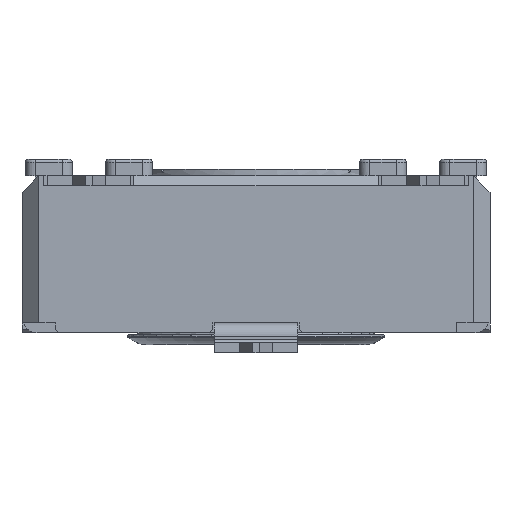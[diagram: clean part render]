
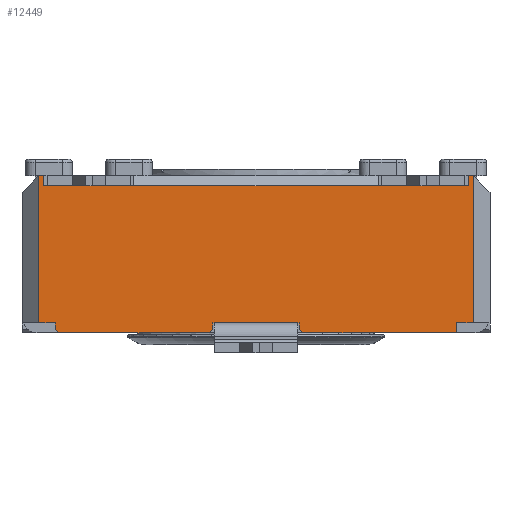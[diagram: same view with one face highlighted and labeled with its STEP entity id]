
A CAD part, front view. The second image highlights one B-rep face of the part: STEP entity #12449.
In plain terms, the highlighted planar face has unit normal (0, -1, 0).
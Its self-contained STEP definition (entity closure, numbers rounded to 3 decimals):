
#334=LINE('',#17734,#1812);
#347=LINE('',#17768,#1825);
#352=LINE('',#17778,#1830);
#430=LINE('',#17937,#1908);
#455=LINE('',#17988,#1933);
#481=LINE('',#18052,#1959);
#482=LINE('',#18054,#1960);
#483=LINE('',#18056,#1961);
#484=LINE('',#18057,#1962);
#485=LINE('',#18059,#1963);
#486=LINE('',#18061,#1964);
#487=LINE('',#18063,#1965);
#488=LINE('',#18065,#1966);
#489=LINE('',#18066,#1967);
#490=LINE('',#18068,#1968);
#491=LINE('',#18070,#1969);
#492=LINE('',#18072,#1970);
#493=LINE('',#18074,#1971);
#494=LINE('',#18076,#1972);
#495=LINE('',#18078,#1973);
#496=LINE('',#18080,#1974);
#497=LINE('',#18082,#1975);
#498=LINE('',#18084,#1976);
#499=LINE('',#18085,#1977);
#500=LINE('',#18087,#1978);
#501=LINE('',#18089,#1979);
#502=LINE('',#18090,#1980);
#1812=VECTOR('',#14211,10.);
#1825=VECTOR('',#14250,10.);
#1830=VECTOR('',#14255,10.);
#1908=VECTOR('',#14357,10.);
#1933=VECTOR('',#14398,10.);
#1959=VECTOR('',#14446,10.);
#1960=VECTOR('',#14447,10.);
#1961=VECTOR('',#14448,10.);
#1962=VECTOR('',#14449,10.);
#1963=VECTOR('',#14450,10.);
#1964=VECTOR('',#14451,10.);
#1965=VECTOR('',#14452,10.);
#1966=VECTOR('',#14453,10.);
#1967=VECTOR('',#14454,10.);
#1968=VECTOR('',#14455,10.);
#1969=VECTOR('',#14456,10.);
#1970=VECTOR('',#14457,10.);
#1971=VECTOR('',#14458,10.);
#1972=VECTOR('',#14459,10.);
#1973=VECTOR('',#14460,10.);
#1974=VECTOR('',#14461,10.);
#1975=VECTOR('',#14462,10.);
#1976=VECTOR('',#14463,10.);
#1977=VECTOR('',#14464,10.);
#1978=VECTOR('',#14465,10.);
#1979=VECTOR('',#14466,10.);
#1980=VECTOR('',#14467,10.);
#3290=FACE_OUTER_BOUND('',#3960,.T.);
#3960=EDGE_LOOP('',(#8291,#8292,#8293,#8294,#8295,#8296,#8297,#8298,#8299,
#8300,#8301,#8302,#8303,#8304,#8305,#8306,#8307,#8308,#8309,#8310,#8311,
#8312,#8313,#8314,#8315,#8316,#8317));
#4951=VERTEX_POINT('',#17712);
#4959=VERTEX_POINT('',#17733);
#4967=VERTEX_POINT('',#17767);
#4971=VERTEX_POINT('',#17775);
#4972=VERTEX_POINT('',#17777);
#5040=VERTEX_POINT('',#17934);
#5041=VERTEX_POINT('',#17936);
#5058=VERTEX_POINT('',#17985);
#5059=VERTEX_POINT('',#17987);
#5086=VERTEX_POINT('',#18051);
#5087=VERTEX_POINT('',#18053);
#5088=VERTEX_POINT('',#18055);
#5089=VERTEX_POINT('',#18058);
#5090=VERTEX_POINT('',#18060);
#5091=VERTEX_POINT('',#18062);
#5092=VERTEX_POINT('',#18064);
#5093=VERTEX_POINT('',#18067);
#5094=VERTEX_POINT('',#18069);
#5095=VERTEX_POINT('',#18071);
#5096=VERTEX_POINT('',#18073);
#5097=VERTEX_POINT('',#18075);
#5098=VERTEX_POINT('',#18077);
#5099=VERTEX_POINT('',#18079);
#5100=VERTEX_POINT('',#18081);
#5101=VERTEX_POINT('',#18083);
#5102=VERTEX_POINT('',#18086);
#5103=VERTEX_POINT('',#18088);
#6174=EDGE_CURVE('',#4951,#4959,#334,.T.);
#6191=EDGE_CURVE('',#4967,#4951,#347,.T.);
#6196=EDGE_CURVE('',#4972,#4971,#352,.T.);
#6275=EDGE_CURVE('',#5041,#5040,#430,.T.);
#6300=EDGE_CURVE('',#5059,#5058,#455,.T.);
#6332=EDGE_CURVE('',#5040,#5086,#481,.T.);
#6333=EDGE_CURVE('',#5086,#5087,#482,.T.);
#6334=EDGE_CURVE('',#5087,#5088,#483,.T.);
#6335=EDGE_CURVE('',#4972,#5088,#484,.T.);
#6336=EDGE_CURVE('',#4971,#5089,#485,.T.);
#6337=EDGE_CURVE('',#5090,#5089,#486,.T.);
#6338=EDGE_CURVE('',#5090,#5091,#487,.T.);
#6339=EDGE_CURVE('',#5092,#5091,#488,.T.);
#6340=EDGE_CURVE('',#4967,#5092,#489,.T.);
#6341=EDGE_CURVE('',#4959,#5093,#490,.T.);
#6342=EDGE_CURVE('',#5093,#5094,#491,.T.);
#6343=EDGE_CURVE('',#5095,#5094,#492,.T.);
#6344=EDGE_CURVE('',#5095,#5096,#493,.T.);
#6345=EDGE_CURVE('',#5096,#5097,#494,.T.);
#6346=EDGE_CURVE('',#5097,#5098,#495,.T.);
#6347=EDGE_CURVE('',#5099,#5098,#496,.T.);
#6348=EDGE_CURVE('',#5099,#5100,#497,.T.);
#6349=EDGE_CURVE('',#5100,#5101,#498,.T.);
#6350=EDGE_CURVE('',#5101,#5059,#499,.T.);
#6351=EDGE_CURVE('',#5058,#5102,#500,.T.);
#6352=EDGE_CURVE('',#5103,#5102,#501,.T.);
#6353=EDGE_CURVE('',#5103,#5041,#502,.T.);
#8291=ORIENTED_EDGE('',*,*,#6275,.T.);
#8292=ORIENTED_EDGE('',*,*,#6332,.T.);
#8293=ORIENTED_EDGE('',*,*,#6333,.T.);
#8294=ORIENTED_EDGE('',*,*,#6334,.T.);
#8295=ORIENTED_EDGE('',*,*,#6335,.F.);
#8296=ORIENTED_EDGE('',*,*,#6196,.T.);
#8297=ORIENTED_EDGE('',*,*,#6336,.T.);
#8298=ORIENTED_EDGE('',*,*,#6337,.F.);
#8299=ORIENTED_EDGE('',*,*,#6338,.T.);
#8300=ORIENTED_EDGE('',*,*,#6339,.F.);
#8301=ORIENTED_EDGE('',*,*,#6340,.F.);
#8302=ORIENTED_EDGE('',*,*,#6191,.T.);
#8303=ORIENTED_EDGE('',*,*,#6174,.T.);
#8304=ORIENTED_EDGE('',*,*,#6341,.T.);
#8305=ORIENTED_EDGE('',*,*,#6342,.T.);
#8306=ORIENTED_EDGE('',*,*,#6343,.F.);
#8307=ORIENTED_EDGE('',*,*,#6344,.T.);
#8308=ORIENTED_EDGE('',*,*,#6345,.T.);
#8309=ORIENTED_EDGE('',*,*,#6346,.T.);
#8310=ORIENTED_EDGE('',*,*,#6347,.F.);
#8311=ORIENTED_EDGE('',*,*,#6348,.T.);
#8312=ORIENTED_EDGE('',*,*,#6349,.T.);
#8313=ORIENTED_EDGE('',*,*,#6350,.T.);
#8314=ORIENTED_EDGE('',*,*,#6300,.T.);
#8315=ORIENTED_EDGE('',*,*,#6351,.T.);
#8316=ORIENTED_EDGE('',*,*,#6352,.F.);
#8317=ORIENTED_EDGE('',*,*,#6353,.T.);
#11737=PLANE('',#13158);
#12449=ADVANCED_FACE('',(#3290),#11737,.T.);
#13158=AXIS2_PLACEMENT_3D('',#18050,#14444,#14445);
#14211=DIRECTION('',(1.,0.,0.));
#14250=DIRECTION('',(1.,0.,0.));
#14255=DIRECTION('',(1.,0.,0.));
#14357=DIRECTION('',(-1.,0.,0.));
#14398=DIRECTION('',(-1.,0.,0.));
#14444=DIRECTION('center_axis',(0.,-1.,0.));
#14445=DIRECTION('ref_axis',(0.,0.,-1.));
#14446=DIRECTION('',(-1.,0.,0.));
#14447=DIRECTION('',(0.,0.,1.));
#14448=DIRECTION('',(-1.,0.,0.));
#14449=DIRECTION('',(0.,0.,1.));
#14450=DIRECTION('',(0.,0.,-1.));
#14451=DIRECTION('',(-0.707,0.,0.707));
#14452=DIRECTION('',(1.,0.,0.));
#14453=DIRECTION('',(-0.707,0.,-0.707));
#14454=DIRECTION('',(0.,0.,-1.));
#14455=DIRECTION('',(1.,0.,0.));
#14456=DIRECTION('',(0.,0.,-1.));
#14457=DIRECTION('',(-0.707,0.,0.707));
#14458=DIRECTION('',(1.,0.,0.));
#14459=DIRECTION('',(0.,0.,1.));
#14460=DIRECTION('',(1.,0.,0.));
#14461=DIRECTION('',(0.,0.,-1.));
#14462=DIRECTION('',(-1.,0.,0.));
#14463=DIRECTION('',(0.,0.,-1.));
#14464=DIRECTION('',(-1.,0.,0.));
#14465=DIRECTION('',(-1.,0.,0.));
#14466=DIRECTION('',(1.,0.,0.));
#14467=DIRECTION('',(-1.,0.,0.));
#17712=CARTESIAN_POINT('',(-8.717,-9.898,0.));
#17733=CARTESIAN_POINT('',(-6.217,-9.898,0.));
#17734=CARTESIAN_POINT('',(-14.467,-9.898,0.));
#17767=CARTESIAN_POINT('',(-8.767,-9.898,0.));
#17768=CARTESIAN_POINT('',(-14.467,-9.898,0.));
#17775=CARTESIAN_POINT('',(-13.467,-9.898,0.));
#17777=CARTESIAN_POINT('',(-13.967,-9.898,0.));
#17778=CARTESIAN_POINT('',(-7.245,-9.898,0.));
#17934=CARTESIAN_POINT('',(-13.717,-9.898,4.1));
#17936=CARTESIAN_POINT('',(-11.217,-9.898,4.1));
#17937=CARTESIAN_POINT('',(-6.467,-9.898,4.1));
#17985=CARTESIAN_POINT('',(-3.717,-9.898,4.1));
#17987=CARTESIAN_POINT('',(-1.217,-9.898,4.1));
#17988=CARTESIAN_POINT('',(-1.467,-9.898,4.1));
#18050=CARTESIAN_POINT('Origin',(-0.467,-9.898,0.));
#18051=CARTESIAN_POINT('',(-13.817,-9.898,4.1));
#18052=CARTESIAN_POINT('',(-3.944,-9.898,4.1));
#18053=CARTESIAN_POINT('',(-13.817,-9.898,4.4));
#18054=CARTESIAN_POINT('',(-13.817,-9.898,2.2));
#18055=CARTESIAN_POINT('',(-13.967,-9.898,4.4));
#18056=CARTESIAN_POINT('',(-14.467,-9.898,4.4));
#18057=CARTESIAN_POINT('',(-13.967,-9.898,0.));
#18058=CARTESIAN_POINT('',(-13.467,-9.898,-0.2));
#18059=CARTESIAN_POINT('',(-13.467,-9.898,-0.15));
#18060=CARTESIAN_POINT('',(-13.367,-9.898,-0.3));
#18061=CARTESIAN_POINT('',(-10.242,-9.898,-3.425));
#18062=CARTESIAN_POINT('',(-8.867,-9.898,-0.3));
#18063=CARTESIAN_POINT('',(-0.467,-9.898,-0.3));
#18064=CARTESIAN_POINT('',(-8.767,-9.898,-0.2));
#18065=CARTESIAN_POINT('',(-6.667,-9.898,1.9));
#18066=CARTESIAN_POINT('',(-8.767,-9.898,0.));
#18067=CARTESIAN_POINT('',(-6.167,-9.898,0.));
#18068=CARTESIAN_POINT('',(-14.467,-9.898,0.));
#18069=CARTESIAN_POINT('',(-6.167,-9.898,-0.2));
#18070=CARTESIAN_POINT('',(-6.167,-9.898,0.));
#18071=CARTESIAN_POINT('',(-6.067,-9.898,-0.3));
#18072=CARTESIAN_POINT('',(-4.767,-9.898,-1.6));
#18073=CARTESIAN_POINT('',(-1.467,-9.898,-0.3));
#18074=CARTESIAN_POINT('',(-0.467,-9.898,-0.3));
#18075=CARTESIAN_POINT('',(-1.467,-9.898,0.));
#18076=CARTESIAN_POINT('',(-1.467,-9.898,-0.15));
#18077=CARTESIAN_POINT('',(-0.967,-9.898,0.));
#18078=CARTESIAN_POINT('',(-0.646,-9.898,0.));
#18079=CARTESIAN_POINT('',(-0.967,-9.898,4.4));
#18080=CARTESIAN_POINT('',(-0.967,-9.898,0.));
#18081=CARTESIAN_POINT('',(-1.117,-9.898,4.4));
#18082=CARTESIAN_POINT('',(-14.467,-9.898,4.4));
#18083=CARTESIAN_POINT('',(-1.117,-9.898,4.1));
#18084=CARTESIAN_POINT('',(-1.117,-9.898,2.2));
#18085=CARTESIAN_POINT('',(-1.862,-9.898,4.1));
#18086=CARTESIAN_POINT('',(-3.817,-9.898,4.1));
#18087=CARTESIAN_POINT('',(-1.862,-9.898,4.1));
#18088=CARTESIAN_POINT('',(-11.117,-9.898,4.1));
#18089=CARTESIAN_POINT('',(-3.967,-9.898,4.1));
#18090=CARTESIAN_POINT('',(-3.944,-9.898,4.1));
